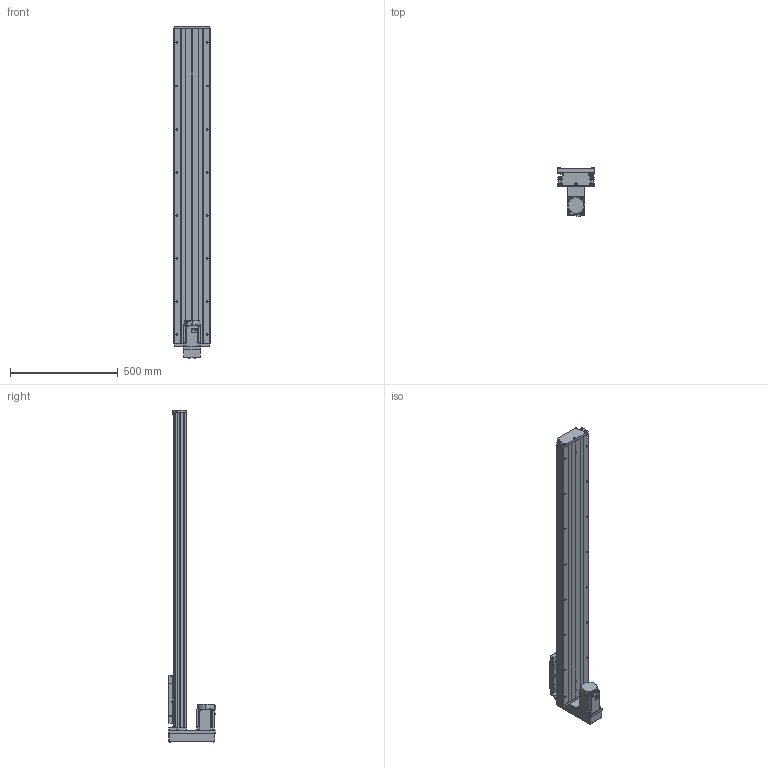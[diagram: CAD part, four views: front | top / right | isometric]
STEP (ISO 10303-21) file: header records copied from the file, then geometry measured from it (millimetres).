
FILE_DESCRIPTION (( 'STEP AP203' ), '1' );
FILE_NAME ('GTH17-1200-BM-M75-C4.step', '2023-06-30T12:38:21', ( '微软用户' ), ( '微软中国' ), 'SwSTEP 2.0', 'SolidWorks 2020', '' );
FILE_SCHEMA (( 'CONFIG_CONTROL_DESIGN' ));
Length unit declared in the file: millimetre
Products named in the file (19): EE_SX911P_R; す晦芛蹟隊 M3℅5; GTH17-001_1200; CTHA60-016; HG-KN73J-S100; GTH17-002_GTH17-002; GBT 70.1-M3℅5; GBT 70.2-M4¡Á45_M4¡Á35; GTH17-004; GBT77-2000 M3×3; GTH17-015-2_CTHA86-015-2; GTH17-005; GBT 70.1-M6¡Á20_M6¡Á20; GTH17-033; GB1155-6X6; GTH17-031; GTH17-1200-BM-M75-C4; CTHA60-017; GBT 70.2-M3¡Á5_M3¡Á6
Assembly tree (58 placements, depth 2):
  GTH17-1200-BM-M75-C4
    GTH17-001_1200
    GTH17-002_GTH17-002
    GTH17-004
    GTH17-005
    GB1155-6X6  x2
    CTHA60-017  x3
    EE_SX911P_R  x3
    CTHA60-016  x2
    GBT 70.1-M3℅5  x6
    GBT77-2000 M3×3  x6
    GBT 70.1-M6¡Á20_M6¡Á20  x10
    GTH17-031
    GBT 70.2-M3¡Á5_M3¡Á6  x8
    す晦芛蹟隊 M3℅5  x6
    HG-KN73J-S100
    GBT 70.2-M4¡Á45_M4¡Á35  x4
    GTH17-015-2_CTHA86-015-2
    GTH17-033
Bounding box: 171 x 222.3 x 1538.2 mm (x, y, z)
Volume: 12400162.9 mm3; surface area: 1624277.7 mm2
Topology: 61 solids, 61 shells, 2469 faces, 5893 edges, 3651 vertices
Faces by surface type: plane 1314, cylinder 682, cone 297, torus 124, sphere 32, bspline 20
Entity records: 45354 total; most frequent: CARTESIAN_POINT 10466, DIRECTION 6601, ORIENTED_EDGE 6498, EDGE_CURVE 3249, AXIS2_PLACEMENT_3D 2264, LINE 2073, VECTOR 2073, VERTEX_POINT 2063
